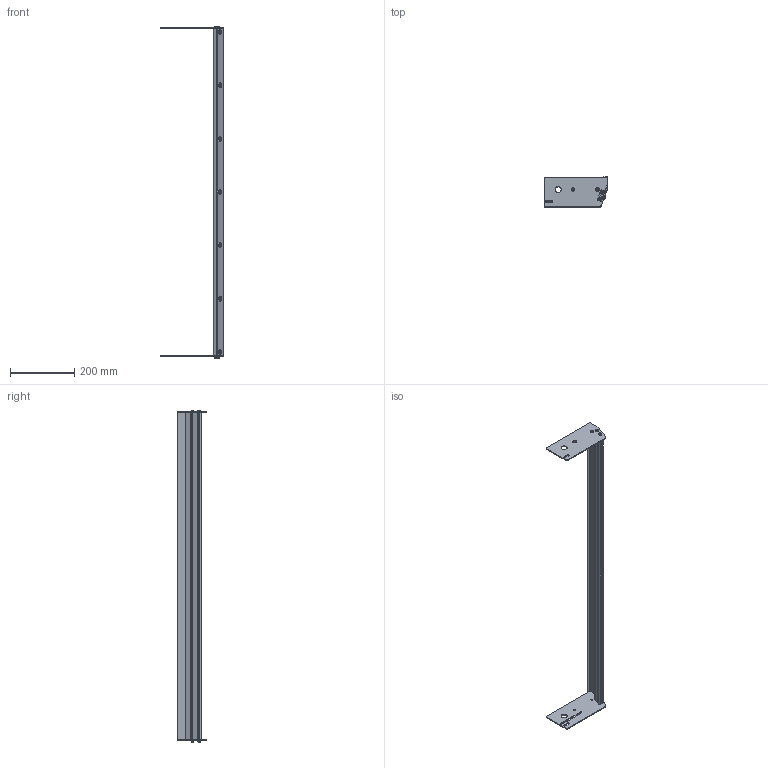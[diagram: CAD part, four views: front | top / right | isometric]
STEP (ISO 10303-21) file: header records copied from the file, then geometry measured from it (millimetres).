
FILE_DESCRIPTION((''),'2;1');
FILE_NAME('351199-40_ASM','2023-03-15T',('jenni.wallner'),(''),'PRO/ENGINEER BY PARAMETRIC TECHNOLOGY CORPORATION, 2012420','PRO/ENGINEER BY PARAMETRIC TECHNOLOGY CORPORATION, 2012420','');
FILE_SCHEMA(('CONFIG_CONTROL_DESIGN'));
Length unit declared in the file: inch
Products named in the file (10): 990603M; 605279P; 351201; 351200_DEFAULT_AS_MACHINED_; 9506XXM_950612M; 9505XXM_950512M; 351203-WW_351203-40; 351202-WW_351202-40; ASM0001_ASM; 351199-40_ASM
Assembly tree (30 placements, depth 3):
  351199-40_ASM
    ASM0001_ASM
      990603M  x7
      605279P  x7
      351201
      351200_DEFAULT_AS_MACHINED_
      9506XXM_950612M  x7
      9505XXM_950512M  x4
      351203-WW_351203-40
      351202-WW_351202-40
Bounding box: 196.11 x 93.08 x 1035.09 mm (x, y, z)
Volume: 512994.9 mm3; surface area: 420422.4 mm2
Topology: 29 solids, 29 shells, 542 faces, 1274 edges, 812 vertices
Faces by surface type: plane 250, cylinder 184, cone 108
Entity records: 8630 total; most frequent: DIRECTION 1571, CARTESIAN_POINT 1563, ORIENTED_EDGE 1342, EDGE_CURVE 671, AXIS2_PLACEMENT_3D 596, VERTEX_POINT 440, VECTOR 379, LINE 379
